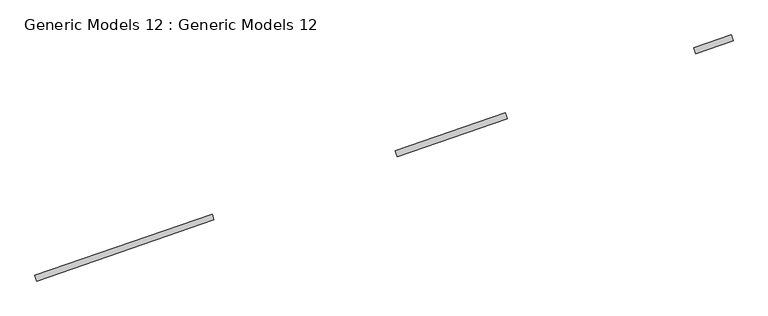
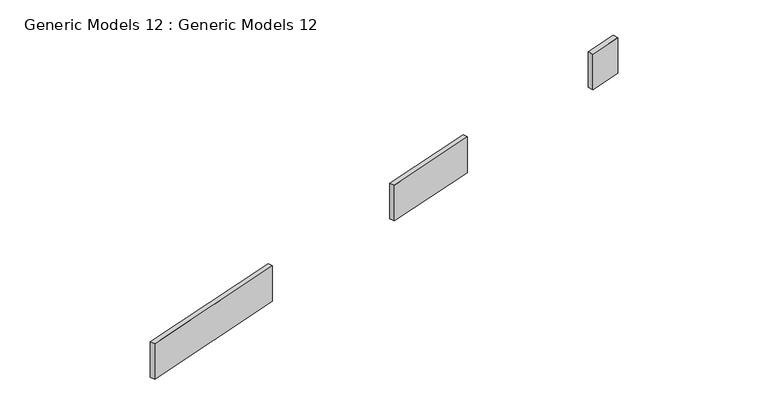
"""IFC4 building model written with IfcOpenShell, lengths in millimetres: proxy geometry, Generic Models 12 : Generic Models 12."""

from ifc_helpers import new_model, si_unit, frame, origin, place, context, project, spatial, polyline, outline, extrude, source, transform, mapped, element, save


def generic_models_12_generic_models_12_c4f2799b(model_context):
    return source(origin(), model_context, "Body", "SweptSolid", [
        extrude(outline(polyline([(477946.7943166, 32002.735019), (480687.9017917, 32949.4819807), (480718.3596373, 32861.2976701), (477977.2521621, 31914.5507084), (477946.7943166, 32002.735019)])), frame((0.0, 0.0, 1206.6489144), z_axis=(0.0, 0.0, 1.0), x_axis=(1.0, 0.0, 0.0)), (0.0, 0.0, 1.0), 700.0),
        extrude(outline(polyline([(488141.6605303, 35523.9244287), (488722.1823225, 35724.4299718), (488752.6401681, 35636.2456612), (488172.1183759, 35435.7401181), (488141.6605303, 35523.9244287)])), frame((0.0, 0.0, 1206.6489144), z_axis=(0.0, 0.0, 1.0), x_axis=(1.0, 0.0, 0.0)), (0.0, 0.0, 1.0), 700.0),
        extrude(outline(polyline([(483523.5302144, 33928.8753893), (485224.9072679, 34516.5114345), (485255.3651135, 34428.3271239), (483553.9880599, 33840.6910787), (483523.5302144, 33928.8753893)])), frame((0.0, 0.0, 1206.6489144), z_axis=(0.0, 0.0, 1.0), x_axis=(1.0, 0.0, 0.0)), (0.0, 0.0, 1.0), 700.0),
    ])


if __name__ == "__main__":
    model = new_model("IFC4")
    model_context = context("Model", 3, world=origin())
    ifc_project = project(units=[si_unit("LENGTHUNIT", "METRE", prefix="MILLI")], contexts=[model_context])
    site = spatial("IfcSite", under=ifc_project)
    building = spatial("IfcBuilding", under=site)
    placement = place(None, origin())
    generic_models_12_generic_models_12_shape = generic_models_12_generic_models_12_c4f2799b(model_context)
    element("IfcBuildingElementProxy", 1, Name="Generic Models 12 : Generic Models 12", ObjectType="Generic Models 12 : Generic Models 12", at=placement, inside=building, context=model_context, shape_type="MappedRepresentation", body=[
        mapped(generic_models_12_generic_models_12_shape, transform((0.0, 0.0, 0.0), x_axis=(1.0, 0.0, 0.0), y_axis=(0.0, 1.0, 0.0), z_axis=(0.0, 0.0, 1.0))),
    ])
    save(model, "model.ifc")
